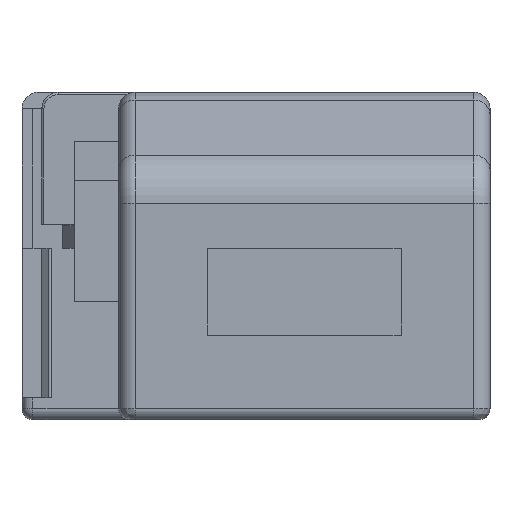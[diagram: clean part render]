
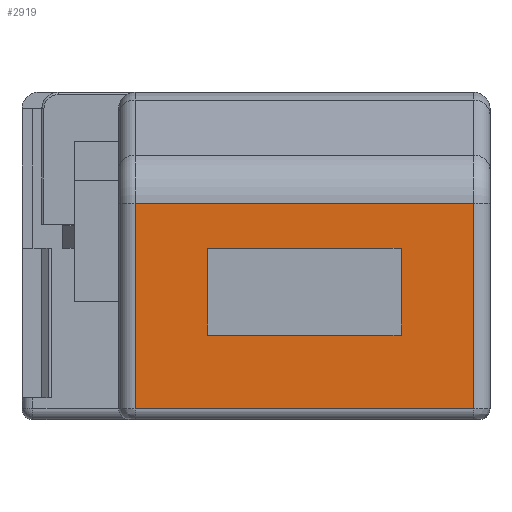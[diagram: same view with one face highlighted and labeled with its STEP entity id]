
A CAD part, left-side view. The second image highlights one B-rep face of the part: STEP entity #2919.
In plain terms, the highlighted planar face has unit normal (-1, 0, 0).
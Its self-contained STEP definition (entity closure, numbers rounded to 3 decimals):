
#1007=DIRECTION('',(0.,-1.,0.));
#1008=VECTOR('',#1007,7.9);
#1009=CARTESIAN_POINT('',(-15.,15.6,-8.8));
#1010=LINE('',#1009,#1008);
#1011=DIRECTION('',(0.,0.,1.));
#1012=VECTOR('',#1011,17.6);
#1013=CARTESIAN_POINT('',(-15.,7.7,-8.8));
#1014=LINE('',#1013,#1012);
#1015=DIRECTION('',(0.,1.,0.));
#1016=VECTOR('',#1015,7.9);
#1017=CARTESIAN_POINT('',(-15.,7.7,8.8));
#1018=LINE('',#1017,#1016);
#1019=DIRECTION('',(0.,0.,-1.));
#1020=VECTOR('',#1019,17.6);
#1021=CARTESIAN_POINT('',(-15.,15.6,8.8));
#1022=LINE('',#1021,#1020);
#1023=DIRECTION('',(0.,0.,1.));
#1024=VECTOR('',#1023,30.8);
#1025=CARTESIAN_POINT('',(-15.,1.,-15.4));
#1026=LINE('',#1025,#1024);
#1027=DIRECTION('',(0.,1.,0.));
#1028=VECTOR('',#1027,18.669);
#1029=CARTESIAN_POINT('',(-15.,1.,-15.4));
#1030=LINE('',#1029,#1028);
#1031=DIRECTION('',(0.,0.,1.));
#1032=VECTOR('',#1031,30.8);
#1033=CARTESIAN_POINT('',(-15.,19.669,-15.4));
#1034=LINE('',#1033,#1032);
#1035=DIRECTION('',(0.,-1.,0.));
#1036=VECTOR('',#1035,18.669);
#1037=CARTESIAN_POINT('',(-15.,19.669,15.4));
#1038=LINE('',#1037,#1036);
#1203=CARTESIAN_POINT('',(-15.,15.6,-8.8));
#1204=CARTESIAN_POINT('',(-15.,7.7,-8.8));
#1205=VERTEX_POINT('',#1203);
#1206=VERTEX_POINT('',#1204);
#1207=CARTESIAN_POINT('',(-15.,7.7,8.8));
#1208=VERTEX_POINT('',#1207);
#1209=CARTESIAN_POINT('',(-15.,15.6,8.8));
#1210=VERTEX_POINT('',#1209);
#1216=CARTESIAN_POINT('',(-15.,19.669,15.4));
#1218=VERTEX_POINT('',#1216);
#1249=CARTESIAN_POINT('',(-15.,19.669,-15.4));
#1250=VERTEX_POINT('',#1249);
#1439=CARTESIAN_POINT('',(-15.,1.,15.4));
#1440=VERTEX_POINT('',#1439);
#1441=CARTESIAN_POINT('',(-15.,1.,-15.4));
#1442=VERTEX_POINT('',#1441);
#2897=CARTESIAN_POINT('',(-15.,19.669,-16.9));
#2898=DIRECTION('',(-1.,0.,0.));
#2899=DIRECTION('',(0.,-1.,0.));
#2900=AXIS2_PLACEMENT_3D('',#2897,#2898,#2899);
#2901=PLANE('',#2900);
#2902=ORIENTED_EDGE('',*,*,#2889,.F.);
#2903=ORIENTED_EDGE('',*,*,#1608,.T.);
#2905=ORIENTED_EDGE('',*,*,#2904,.T.);
#2906=ORIENTED_EDGE('',*,*,#2852,.T.);
#2907=EDGE_LOOP('',(#2902,#2903,#2905,#2906));
#2908=FACE_OUTER_BOUND('',#2907,.F.);
#2910=ORIENTED_EDGE('',*,*,#2909,.T.);
#2912=ORIENTED_EDGE('',*,*,#2911,.T.);
#2914=ORIENTED_EDGE('',*,*,#2913,.T.);
#2916=ORIENTED_EDGE('',*,*,#2915,.T.);
#2917=EDGE_LOOP('',(#2910,#2912,#2914,#2916));
#2918=FACE_BOUND('',#2917,.F.);
#1608=EDGE_CURVE('',#1442,#1250,#1030,.T.);
#2852=EDGE_CURVE('',#1218,#1440,#1038,.T.);
#2889=EDGE_CURVE('',#1442,#1440,#1026,.T.);
#2904=EDGE_CURVE('',#1250,#1218,#1034,.T.);
#2909=EDGE_CURVE('',#1205,#1206,#1010,.T.);
#2911=EDGE_CURVE('',#1206,#1208,#1014,.T.);
#2913=EDGE_CURVE('',#1208,#1210,#1018,.T.);
#2915=EDGE_CURVE('',#1210,#1205,#1022,.T.);
#2919=ADVANCED_FACE('',(#2908,#2918),#2901,.T.);
